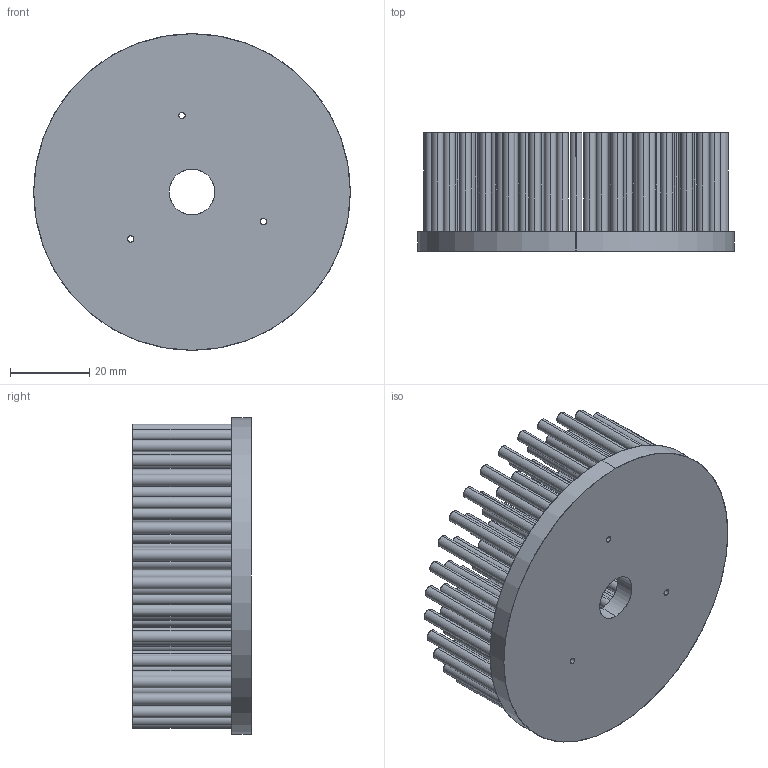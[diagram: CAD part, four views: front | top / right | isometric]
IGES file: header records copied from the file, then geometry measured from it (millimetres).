
Start section: SolidWorks IGES file using analytic representation for surfaces
Global section: file name: C:\Documents and Settings\Administrator\桌面\27-06-2012\M2\XSA-66-M2 (O80mm X 30mm).IGS,1; native system: 5HSolidWorks 2011; preprocessor: SolidWorks 2011; author: Administrator; date: 120627.165831; units: millimetre
Bounding box: 80 x 30 x 80 mm (x, y, z)
Surface area: 45510.8 mm2 (no closed solid volume)
Topology: 0 solids, 0 shells, 447 faces, 10768 edges, 10768 vertices
Faces by surface type: revolution 300, bspline 147
